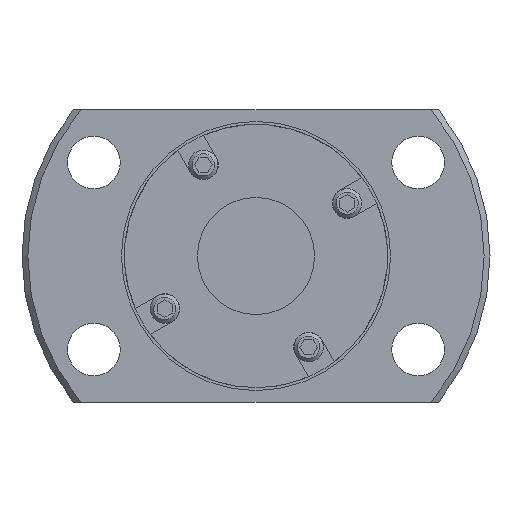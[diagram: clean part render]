
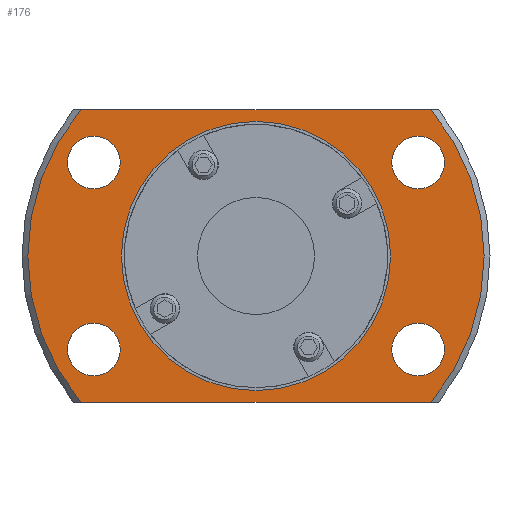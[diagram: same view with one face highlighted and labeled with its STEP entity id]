
A CAD part, left-side view. The second image highlights one B-rep face of the part: STEP entity #176.
In plain terms, the highlighted planar face has unit normal (-1, 0, 0).
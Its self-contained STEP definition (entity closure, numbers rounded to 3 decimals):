
#176 = ADVANCED_FACE( '', ( #396, #397, #398, #399, #400, #401 ), #402, .F. );
#396 = FACE_OUTER_BOUND( '', #704, .T. );
#397 = FACE_BOUND( '', #705, .T. );
#398 = FACE_BOUND( '', #706, .T. );
#399 = FACE_BOUND( '', #707, .T. );
#400 = FACE_BOUND( '', #708, .T. );
#401 = FACE_BOUND( '', #709, .T. );
#402 = PLANE( '', #710 );
#704 = EDGE_LOOP( '', ( #1065, #1066, #1067, #1068 ) );
#705 = EDGE_LOOP( '', ( #1069 ) );
#706 = EDGE_LOOP( '', ( #1070 ) );
#707 = EDGE_LOOP( '', ( #1071 ) );
#708 = EDGE_LOOP( '', ( #1072 ) );
#709 = EDGE_LOOP( '', ( #1073 ) );
#710 = AXIS2_PLACEMENT_3D( '', #1074, #1075, #1076 );
#1065 = ORIENTED_EDGE( '', *, *, #1713, .F. );
#1066 = ORIENTED_EDGE( '', *, *, #1709, .T. );
#1067 = ORIENTED_EDGE( '', *, *, #1714, .F. );
#1068 = ORIENTED_EDGE( '', *, *, #1715, .T. );
#1069 = ORIENTED_EDGE( '', *, *, #1716, .T. );
#1070 = ORIENTED_EDGE( '', *, *, #1717, .T. );
#1071 = ORIENTED_EDGE( '', *, *, #1718, .T. );
#1072 = ORIENTED_EDGE( '', *, *, #1719, .T. );
#1073 = ORIENTED_EDGE( '', *, *, #1720, .T. );
#1074 = CARTESIAN_POINT( '', ( 13., 11.25, 0. ) );
#1075 = DIRECTION( '', ( 1., 0., 0. ) );
#1076 = DIRECTION( '', ( 0., 0., -1. ) );
#1709 = EDGE_CURVE( '', #2006, #2015, #2017, .T. );
#1713 = EDGE_CURVE( '', #2006, #2022, #2023, .T. );
#1714 = EDGE_CURVE( '', #2024, #2015, #2025, .T. );
#1715 = EDGE_CURVE( '', #2024, #2022, #2026, .T. );
#1716 = EDGE_CURVE( '', #2027, #2027, #2028, .T. );
#1717 = EDGE_CURVE( '', #2029, #2029, #2030, .T. );
#1718 = EDGE_CURVE( '', #2031, #2031, #2032, .T. );
#1719 = EDGE_CURVE( '', #2033, #2033, #2034, .T. );
#1720 = EDGE_CURVE( '', #2035, #2035, #2036, .T. );
#2006 = VERTEX_POINT( '', #2434 );
#2015 = VERTEX_POINT( '', #2452 );
#2017 = LINE( '', #2457, #2458 );
#2022 = VERTEX_POINT( '', #2463 );
#2023 = CIRCLE( '', #2464, 19.5 );
#2024 = VERTEX_POINT( '', #2465 );
#2025 = CIRCLE( '', #2466, 19.5 );
#2026 = LINE( '', #2467, #2468 );
#2027 = VERTEX_POINT( '', #2469 );
#2028 = CIRCLE( '', #2470, 2.25 );
#2029 = VERTEX_POINT( '', #2471 );
#2030 = CIRCLE( '', #2472, 2.25 );
#2031 = VERTEX_POINT( '', #2473 );
#2032 = CIRCLE( '', #2474, 2.25 );
#2033 = VERTEX_POINT( '', #2475 );
#2034 = CIRCLE( '', #2476, 2.25 );
#2035 = VERTEX_POINT( '', #2477 );
#2036 = CIRCLE( '', #2478, 11.25 );
#2434 = CARTESIAN_POINT( '', ( 13., 14.967, -12.5 ) );
#2452 = CARTESIAN_POINT( '', ( 13., -14.967, -12.5 ) );
#2457 = CARTESIAN_POINT( '', ( 13., 11.25, -12.5 ) );
#2458 = VECTOR( '', #2887, 1000. );
#2463 = CARTESIAN_POINT( '', ( 13., 14.967, 12.5 ) );
#2464 = AXIS2_PLACEMENT_3D( '', #2891, #2892, #2893 );
#2465 = CARTESIAN_POINT( '', ( 13., -14.967, 12.5 ) );
#2466 = AXIS2_PLACEMENT_3D( '', #2894, #2895, #2896 );
#2467 = CARTESIAN_POINT( '', ( 13., 11.25, 12.5 ) );
#2468 = VECTOR( '', #2897, 1000. );
#2469 = CARTESIAN_POINT( '', ( 13., -13.856, 5.75 ) );
#2470 = AXIS2_PLACEMENT_3D( '', #2898, #2899, #2900 );
#2471 = CARTESIAN_POINT( '', ( 13., -13.856, -10.25 ) );
#2472 = AXIS2_PLACEMENT_3D( '', #2901, #2902, #2903 );
#2473 = CARTESIAN_POINT( '', ( 13., 13.856, -10.25 ) );
#2474 = AXIS2_PLACEMENT_3D( '', #2904, #2905, #2906 );
#2475 = CARTESIAN_POINT( '', ( 13., 13.856, 5.75 ) );
#2476 = AXIS2_PLACEMENT_3D( '', #2907, #2908, #2909 );
#2477 = CARTESIAN_POINT( '', ( 13., 0., -11.25 ) );
#2478 = AXIS2_PLACEMENT_3D( '', #2910, #2911, #2912 );
#2887 = DIRECTION( '', ( 0., -1., 0. ) );
#2891 = CARTESIAN_POINT( '', ( 13., 0., 0. ) );
#2892 = DIRECTION( '', ( 1., 0., 0. ) );
#2893 = DIRECTION( '', ( 0., 0., -1. ) );
#2894 = CARTESIAN_POINT( '', ( 13., 0., 0. ) );
#2895 = DIRECTION( '', ( 1., 0., 0. ) );
#2896 = DIRECTION( '', ( 0., 0., -1. ) );
#2897 = DIRECTION( '', ( 0., 1., 0. ) );
#2898 = CARTESIAN_POINT( '', ( 13., -13.856, 8. ) );
#2899 = DIRECTION( '', ( 1., 0., 0. ) );
#2900 = DIRECTION( '', ( 0., 0., -1. ) );
#2901 = CARTESIAN_POINT( '', ( 13., -13.856, -8. ) );
#2902 = DIRECTION( '', ( 1., 0., 0. ) );
#2903 = DIRECTION( '', ( 0., 0., -1. ) );
#2904 = CARTESIAN_POINT( '', ( 13., 13.856, -8. ) );
#2905 = DIRECTION( '', ( 1., 0., 0. ) );
#2906 = DIRECTION( '', ( 0., 0., -1. ) );
#2907 = CARTESIAN_POINT( '', ( 13., 13.856, 8. ) );
#2908 = DIRECTION( '', ( 1., 0., 0. ) );
#2909 = DIRECTION( '', ( 0., 0., -1. ) );
#2910 = CARTESIAN_POINT( '', ( 13., 0., 0. ) );
#2911 = DIRECTION( '', ( 1., 0., 0. ) );
#2912 = DIRECTION( '', ( 0., 0., -1. ) );
